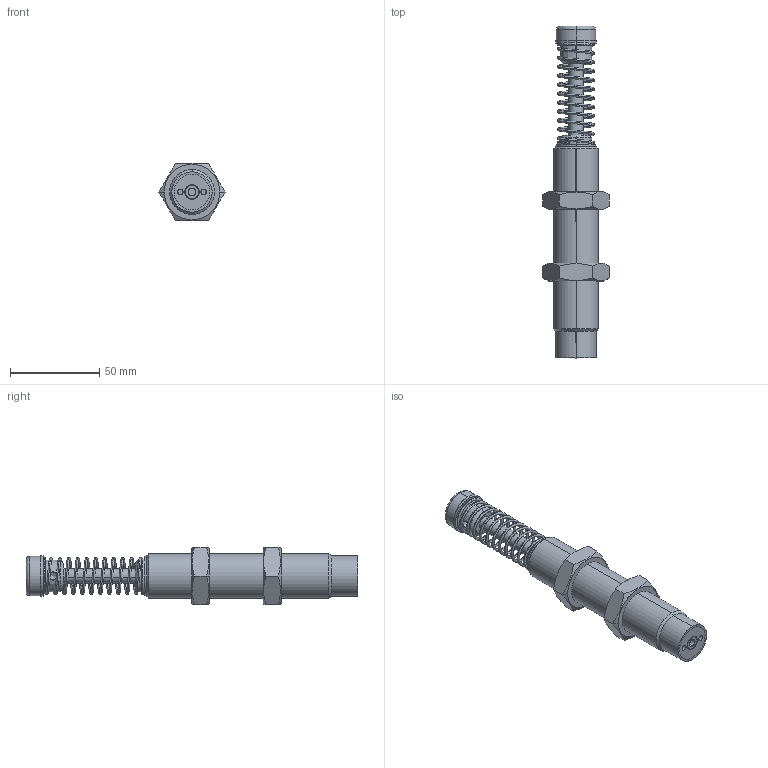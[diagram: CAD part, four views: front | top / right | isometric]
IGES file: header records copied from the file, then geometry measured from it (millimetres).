
Start section: SolidWorks IGES file using analytic representation for surfaces
Bounding box: 36.95 x 185.5 x 32 mm (x, y, z)
Surface area: 21935.1 mm2 (no closed solid volume)
Topology: 0 solids, 0 shells, 90 faces, 1860 edges, 1856 vertices
Faces by surface type: revolution 50, bspline 40
